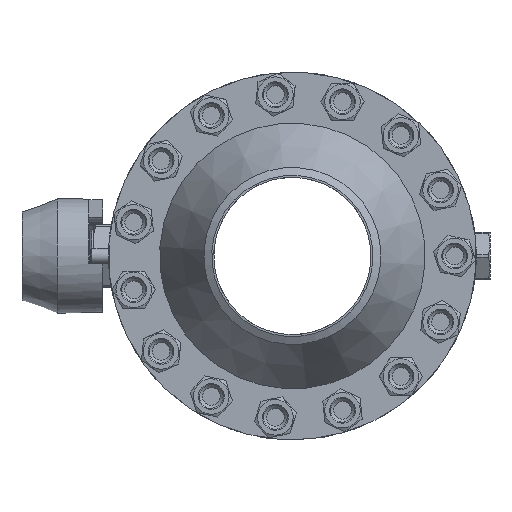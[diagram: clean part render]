
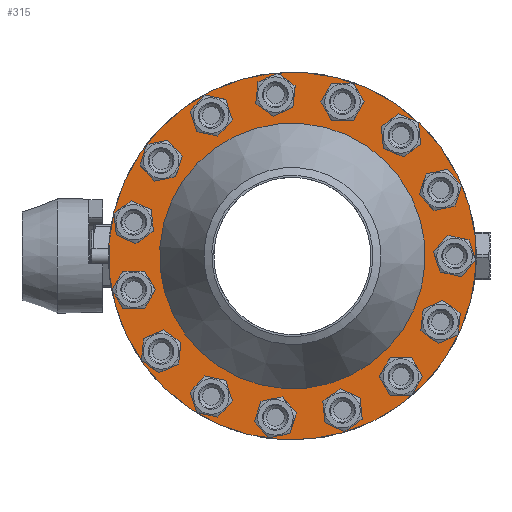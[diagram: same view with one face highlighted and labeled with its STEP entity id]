
A CAD part, left-side view. The second image highlights one B-rep face of the part: STEP entity #315.
In plain terms, the highlighted planar face has unit normal (-1, 0, 0).
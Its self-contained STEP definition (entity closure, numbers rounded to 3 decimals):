
#315=ADVANCED_FACE('',(#5915,#5917,#5919,#5921,#5923,#5925,#5927,#5929,#5931,#5933,
#5935,#5937,#5939,#5941,#5943,#5945,#5947),#5949,.T.);
#5915=FACE_BOUND('',#5916,.T.);
#5916=EDGE_LOOP('',(#10265));
#5917=FACE_BOUND('',#5918,.T.);
#5918=EDGE_LOOP('',(#10266));
#5919=FACE_BOUND('',#5920,.T.);
#5920=EDGE_LOOP('',(#10267));
#5921=FACE_BOUND('',#5922,.T.);
#5922=EDGE_LOOP('',(#10268));
#5923=FACE_BOUND('',#5924,.T.);
#5924=EDGE_LOOP('',(#10269));
#5925=FACE_BOUND('',#5926,.T.);
#5926=EDGE_LOOP('',(#10270));
#5927=FACE_BOUND('',#5928,.T.);
#5928=EDGE_LOOP('',(#10271));
#5929=FACE_BOUND('',#5930,.T.);
#5930=EDGE_LOOP('',(#10272));
#5931=FACE_BOUND('',#5932,.T.);
#5932=EDGE_LOOP('',(#10273));
#5933=FACE_BOUND('',#5934,.T.);
#5934=EDGE_LOOP('',(#10274));
#5935=FACE_BOUND('',#5936,.T.);
#5936=EDGE_LOOP('',(#10275));
#5937=FACE_BOUND('',#5938,.T.);
#5938=EDGE_LOOP('',(#10276));
#5939=FACE_BOUND('',#5940,.T.);
#5940=EDGE_LOOP('',(#10277));
#5941=FACE_BOUND('',#5942,.T.);
#5942=EDGE_LOOP('',(#10278));
#5943=FACE_BOUND('',#5944,.T.);
#5944=EDGE_LOOP('',(#10279));
#5945=FACE_BOUND('',#5946,.T.);
#5946=EDGE_LOOP('',(#10280));
#5947=FACE_OUTER_BOUND('',#5948,.T.);
#5948=EDGE_LOOP('',(#10281));
#5949=PLANE('',#5950);
#5950=AXIS2_PLACEMENT_3D('',#5951,#5952,#5953);
#5951=CARTESIAN_POINT('',(-72.5,0.,0.));
#5952=DIRECTION('',(-1.,0.,0.));
#5953=DIRECTION('',(0.,0.914,0.407));
#10265=ORIENTED_EDGE('',*,*,#14375,.T.);
#10266=ORIENTED_EDGE('',*,*,#14376,.T.);
#10267=ORIENTED_EDGE('',*,*,#14377,.T.);
#10268=ORIENTED_EDGE('',*,*,#14378,.T.);
#10269=ORIENTED_EDGE('',*,*,#14379,.T.);
#10270=ORIENTED_EDGE('',*,*,#14380,.T.);
#10271=ORIENTED_EDGE('',*,*,#14381,.T.);
#10272=ORIENTED_EDGE('',*,*,#14382,.T.);
#10273=ORIENTED_EDGE('',*,*,#14383,.T.);
#10274=ORIENTED_EDGE('',*,*,#14384,.T.);
#10275=ORIENTED_EDGE('',*,*,#14385,.T.);
#10276=ORIENTED_EDGE('',*,*,#14386,.T.);
#10277=ORIENTED_EDGE('',*,*,#14387,.T.);
#10278=ORIENTED_EDGE('',*,*,#14388,.T.);
#10279=ORIENTED_EDGE('',*,*,#14389,.T.);
#10280=ORIENTED_EDGE('',*,*,#14390,.T.);
#10281=ORIENTED_EDGE('',*,*,#14289,.F.);
#14289=EDGE_CURVE('',#15842,#15842,#15844,.T.);
#14375=EDGE_CURVE('',#15976,#15976,#15977,.F.);
#14376=EDGE_CURVE('',#15978,#15978,#15979,.F.);
#14377=EDGE_CURVE('',#15980,#15980,#15981,.F.);
#14378=EDGE_CURVE('',#15982,#15982,#15983,.F.);
#14379=EDGE_CURVE('',#15984,#15984,#15985,.F.);
#14380=EDGE_CURVE('',#15986,#15986,#15987,.F.);
#14381=EDGE_CURVE('',#15988,#15988,#15989,.F.);
#14382=EDGE_CURVE('',#15990,#15990,#15991,.T.);
#14383=EDGE_CURVE('',#15992,#15992,#15993,.F.);
#14384=EDGE_CURVE('',#15994,#15994,#15995,.F.);
#14385=EDGE_CURVE('',#15996,#15996,#15997,.F.);
#14386=EDGE_CURVE('',#15998,#15998,#15999,.F.);
#14387=EDGE_CURVE('',#16000,#16000,#16001,.F.);
#14388=EDGE_CURVE('',#16002,#16002,#16003,.F.);
#14389=EDGE_CURVE('',#16004,#16004,#16005,.F.);
#14390=EDGE_CURVE('',#16006,#16006,#16007,.F.);
#15842=VERTEX_POINT('',#28202);
#15844=CIRCLE('',#28206,93.5);
#15976=VERTEX_POINT('',#28779);
#15977=CIRCLE('',#28780,9.025);
#15978=VERTEX_POINT('',#28784);
#15979=CIRCLE('',#28785,9.025);
#15980=VERTEX_POINT('',#28789);
#15981=CIRCLE('',#28790,9.025);
#15982=VERTEX_POINT('',#28794);
#15983=CIRCLE('',#28795,9.025);
#15984=VERTEX_POINT('',#28799);
#15985=CIRCLE('',#28800,9.025);
#15986=VERTEX_POINT('',#28804);
#15987=CIRCLE('',#28805,9.025);
#15988=VERTEX_POINT('',#28809);
#15989=CIRCLE('',#28810,9.025);
#15990=VERTEX_POINT('',#28814);
#15991=CIRCLE('',#28815,67.517);
#15992=VERTEX_POINT('',#28819);
#15993=CIRCLE('',#28820,9.025);
#15994=VERTEX_POINT('',#28824);
#15995=CIRCLE('',#28825,9.025);
#15996=VERTEX_POINT('',#28829);
#15997=CIRCLE('',#28830,9.025);
#15998=VERTEX_POINT('',#28834);
#15999=CIRCLE('',#28835,9.025);
#16000=VERTEX_POINT('',#28839);
#16001=CIRCLE('',#28840,9.025);
#16002=VERTEX_POINT('',#28844);
#16003=CIRCLE('',#28845,9.025);
#16004=VERTEX_POINT('',#28849);
#16005=CIRCLE('',#28850,9.025);
#16006=VERTEX_POINT('',#28854);
#16007=CIRCLE('',#28855,9.025);
#28202=CARTESIAN_POINT('',(-72.5,85.417,38.03));
#28206=AXIS2_PLACEMENT_3D('',#28207,#28208,#28209);
#28207=CARTESIAN_POINT('',(-72.5,0.,0.));
#28208=DIRECTION('',(1.,0.,0.));
#28209=DIRECTION('',(0.,0.914,0.407));
#28779=CARTESIAN_POINT('',(-72.5,38.461,62.864));
#28780=AXIS2_PLACEMENT_3D('',#28781,#28782,#28783);
#28781=CARTESIAN_POINT('',(-72.5,41.25,71.447));
#28782=DIRECTION('',(-1.,0.,0.));
#28783=DIRECTION('',(0.,-0.309,-0.951));
#28784=CARTESIAN_POINT('',(-72.5,-20.981,70.646));
#28785=AXIS2_PLACEMENT_3D('',#28786,#28787,#28788);
#28786=CARTESIAN_POINT('',(-72.5,-25.494,78.462));
#28787=DIRECTION('',(-1.,0.,0.));
#28788=DIRECTION('',(0.,0.5,-0.866));
#28789=CARTESIAN_POINT('',(-72.5,-66.54,31.679));
#28790=AXIS2_PLACEMENT_3D('',#28791,#28792,#28793);
#28791=CARTESIAN_POINT('',(-72.5,-75.368,33.556));
#28792=DIRECTION('',(-1.,0.,0.));
#28793=DIRECTION('',(0.,0.978,-0.208));
#28794=CARTESIAN_POINT('',(-72.5,-68.066,-28.251));
#28795=AXIS2_PLACEMENT_3D('',#28796,#28797,#28798);
#28796=CARTESIAN_POINT('',(-72.5,-75.368,-33.556));
#28797=DIRECTION('',(-1.,0.,0.));
#28798=DIRECTION('',(0.,0.809,0.588));
#28799=CARTESIAN_POINT('',(-72.5,-24.551,-69.487));
#28800=AXIS2_PLACEMENT_3D('',#28801,#28802,#28803);
#28801=CARTESIAN_POINT('',(-72.5,-25.494,-78.462));
#28802=DIRECTION('',(-1.,0.,0.));
#28803=DIRECTION('',(0.,0.105,0.995));
#28804=CARTESIAN_POINT('',(-72.5,35.211,-64.74));
#28805=AXIS2_PLACEMENT_3D('',#28806,#28807,#28808);
#28806=CARTESIAN_POINT('',(-72.5,41.25,-71.447));
#28807=DIRECTION('',(-1.,0.,0.));
#28808=DIRECTION('',(0.,-0.669,0.743));
#28809=CARTESIAN_POINT('',(-72.5,71.672,-17.153));
#28810=AXIS2_PLACEMENT_3D('',#28811,#28812,#28813);
#28811=CARTESIAN_POINT('',(-72.5,80.697,-17.153));
#28812=DIRECTION('',(-1.,0.,0.));
#28813=DIRECTION('',(0.,-1.,0.));
#28814=CARTESIAN_POINT('',(-72.5,61.68,27.461));
#28815=AXIS2_PLACEMENT_3D('',#28816,#28817,#28818);
#28816=CARTESIAN_POINT('',(-72.5,0.,0.));
#28817=DIRECTION('',(1.,0.,0.));
#28818=DIRECTION('',(0.,0.914,0.407));
#28819=CARTESIAN_POINT('',(-72.5,72.452,13.482));
#28820=AXIS2_PLACEMENT_3D('',#28821,#28822,#28823);
#28821=CARTESIAN_POINT('',(-72.5,80.697,17.153));
#28822=DIRECTION('',(-1.,0.,0.));
#28823=DIRECTION('',(0.,-0.914,-0.407));
#28824=CARTESIAN_POINT('',(-72.5,58.499,-44.821));
#28825=AXIS2_PLACEMENT_3D('',#28826,#28827,#28828);
#28826=CARTESIAN_POINT('',(-72.5,66.744,-48.492));
#28827=DIRECTION('',(-1.,0.,0.));
#28828=DIRECTION('',(0.,-0.914,0.407));
#28829=CARTESIAN_POINT('',(-72.5,5.835,-73.465));
#28830=AXIS2_PLACEMENT_3D('',#28831,#28832,#28833);
#28831=CARTESIAN_POINT('',(-72.5,8.624,-82.048));
#28832=DIRECTION('',(-1.,0.,0.));
#28833=DIRECTION('',(0.,-0.309,0.951));
#28834=CARTESIAN_POINT('',(-72.5,-50.691,-53.494));
#28835=AXIS2_PLACEMENT_3D('',#28836,#28837,#28838);
#28836=CARTESIAN_POINT('',(-72.5,-55.203,-61.309));
#28837=DIRECTION('',(-1.,0.,0.));
#28838=DIRECTION('',(0.,0.5,0.866));
#28839=CARTESIAN_POINT('',(-72.5,-73.672,1.876));
#28840=AXIS2_PLACEMENT_3D('',#28841,#28842,#28843);
#28841=CARTESIAN_POINT('',(-72.5,-82.5,0.));
#28842=DIRECTION('',(-1.,0.,0.));
#28843=DIRECTION('',(0.,0.978,0.208));
#28844=CARTESIAN_POINT('',(-72.5,-47.902,56.005));
#28845=AXIS2_PLACEMENT_3D('',#28846,#28847,#28848);
#28846=CARTESIAN_POINT('',(-72.5,-55.203,61.309));
#28847=DIRECTION('',(-1.,0.,0.));
#28848=DIRECTION('',(0.,0.809,-0.588));
#28849=CARTESIAN_POINT('',(-72.5,9.567,73.072));
#28850=AXIS2_PLACEMENT_3D('',#28851,#28852,#28853);
#28851=CARTESIAN_POINT('',(-72.5,8.624,82.048));
#28852=DIRECTION('',(-1.,0.,0.));
#28853=DIRECTION('',(0.,0.105,-0.995));
#28854=CARTESIAN_POINT('',(-72.5,60.705,41.785));
#28855=AXIS2_PLACEMENT_3D('',#28856,#28857,#28858);
#28856=CARTESIAN_POINT('',(-72.5,66.744,48.492));
#28857=DIRECTION('',(-1.,0.,0.));
#28858=DIRECTION('',(0.,-0.669,-0.743));
